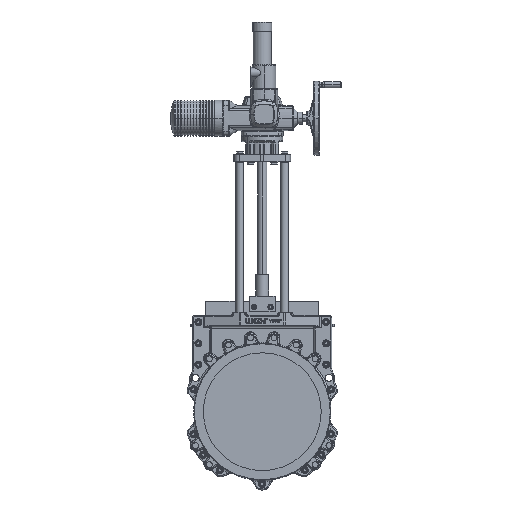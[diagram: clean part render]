
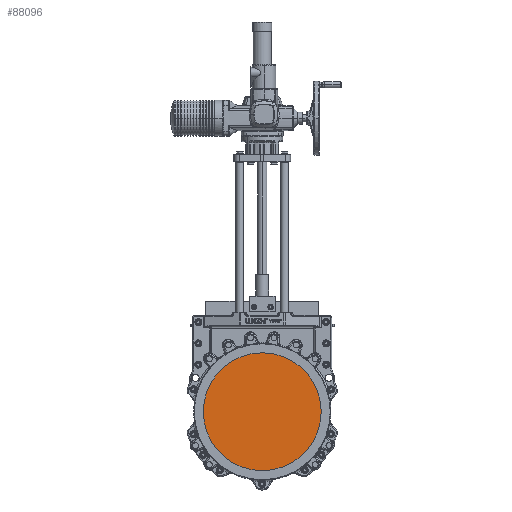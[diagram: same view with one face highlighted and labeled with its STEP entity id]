
A CAD part, top view. The second image highlights one B-rep face of the part: STEP entity #88096.
In plain terms, the highlighted planar face has unit normal (0, 0, 1).
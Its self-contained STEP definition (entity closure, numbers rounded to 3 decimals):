
#6040 = FACE_OUTER_BOUND ( 'NONE', #115347, .T. ) ;
#13539 = CARTESIAN_POINT ( 'NONE',  ( 0., 0., -0.25 ) ) ;
#17371 = AXIS2_PLACEMENT_3D ( 'NONE', #13539, #124994, #29556 ) ;
#29556 = DIRECTION ( 'NONE',  ( -1., 0., 0. ) ) ;
#33695 = AXIS2_PLACEMENT_3D ( 'NONE', #45221, #156629, #61233 ) ;
#34016 = EDGE_CURVE ( 'NONE', #119418, #76134, #76395, .T. ) ;
#45221 = CARTESIAN_POINT ( 'NONE',  ( 0., 0., -0.25 ) ) ;
#49289 = CARTESIAN_POINT ( 'NONE',  ( 250., 0., -0.25 ) ) ;
#59479 = DIRECTION ( 'NONE',  ( 0., 0., -1. ) ) ;
#61233 = DIRECTION ( 'NONE',  ( -1., 0., 0. ) ) ;
#63104 = EDGE_CURVE ( 'NONE', #76134, #119418, #109723, .T. ) ;
#74692 = PLANE ( 'NONE',  #191377 ) ;
#76134 = VERTEX_POINT ( 'NONE', #119469 ) ;
#76395 = CIRCLE ( 'NONE', #17371, 250. ) ;
#88096 = ADVANCED_FACE ( 'NONE', ( #6040 ), #74692, .F. ) ;
#109723 = CIRCLE ( 'NONE', #33695, 250. ) ;
#113213 = ORIENTED_EDGE ( 'NONE', *, *, #34016, .F. ) ;
#115347 = EDGE_LOOP ( 'NONE', ( #113213, #137568 ) ) ;
#119418 = VERTEX_POINT ( 'NONE', #49289 ) ;
#119469 = CARTESIAN_POINT ( 'NONE',  ( -250., 0., -0.25 ) ) ;
#124994 = DIRECTION ( 'NONE',  ( 0., 0., -1. ) ) ;
#137568 = ORIENTED_EDGE ( 'NONE', *, *, #63104, .F. ) ;
#154828 = CARTESIAN_POINT ( 'NONE',  ( 0., 108., -0.25 ) ) ;
#156629 = DIRECTION ( 'NONE',  ( 0., 0., -1. ) ) ;
#170810 = DIRECTION ( 'NONE',  ( -1., 0., 0. ) ) ;
#191377 = AXIS2_PLACEMENT_3D ( 'NONE', #154828, #59479, #170810 ) ;
